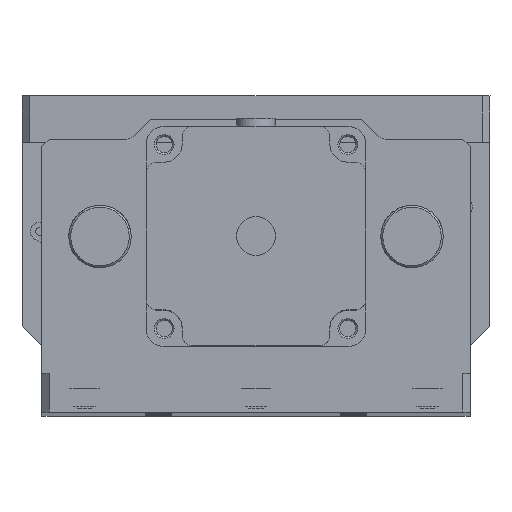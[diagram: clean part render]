
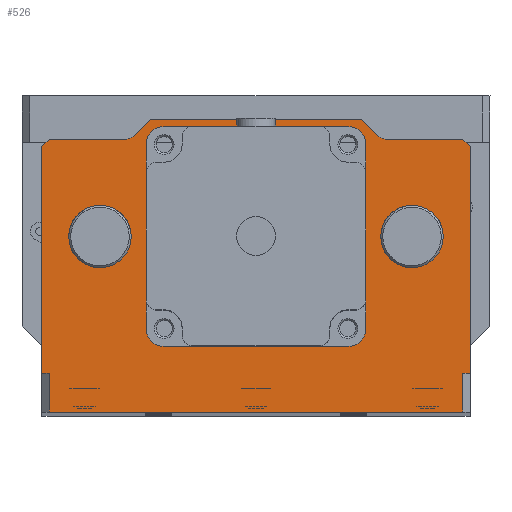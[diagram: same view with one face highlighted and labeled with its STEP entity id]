
A CAD part, top view. The second image highlights one B-rep face of the part: STEP entity #526.
In plain terms, the highlighted planar face has unit normal (0, 0, 1).
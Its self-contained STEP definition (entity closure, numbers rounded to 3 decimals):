
#526=ADVANCED_FACE('',(#14912,#14914,#14916,#14918),#14920,.T.);
#14912=FACE_BOUND('',#14913,.T.);
#14913=EDGE_LOOP('',(#26946,#26947,#26948,#26949,#26950,#26951,#26952,#26953,#26954,
#26955,#26956,#26957,#26958,#26959,#26960,#26961));
#14914=FACE_BOUND('',#14915,.T.);
#14915=EDGE_LOOP('',(#26962,#26963,#26964,#26965,#26966,#26967,#26968,#26969));
#14916=FACE_BOUND('',#14917,.T.);
#14917=EDGE_LOOP('',(#26970));
#14918=FACE_BOUND('',#14919,.T.);
#14919=EDGE_LOOP('',(#26971));
#14920=PLANE('',#14921);
#14921=AXIS2_PLACEMENT_3D('',#14922,#14923,#14924);
#14922=CARTESIAN_POINT('',(-55.,-45.,0.));
#14923=DIRECTION('',(0.,0.,1.));
#14924=DIRECTION('',(1.,0.,0.));
#26946=ORIENTED_EDGE('',*,*,#34131,.F.);
#26947=ORIENTED_EDGE('',*,*,#34096,.T.);
#26948=ORIENTED_EDGE('',*,*,#34133,.T.);
#26949=ORIENTED_EDGE('',*,*,#34134,.T.);
#26950=ORIENTED_EDGE('',*,*,#34007,.T.);
#26951=ORIENTED_EDGE('',*,*,#34135,.F.);
#26952=ORIENTED_EDGE('',*,*,#34136,.T.);
#26953=ORIENTED_EDGE('',*,*,#34137,.F.);
#26954=ORIENTED_EDGE('',*,*,#34138,.T.);
#26955=ORIENTED_EDGE('',*,*,#34139,.T.);
#26956=ORIENTED_EDGE('',*,*,#34140,.T.);
#26957=ORIENTED_EDGE('',*,*,#34141,.F.);
#26958=ORIENTED_EDGE('',*,*,#34142,.T.);
#26959=ORIENTED_EDGE('',*,*,#34143,.F.);
#26960=ORIENTED_EDGE('',*,*,#33964,.T.);
#26961=ORIENTED_EDGE('',*,*,#34132,.T.);
#26962=ORIENTED_EDGE('',*,*,#34144,.F.);
#26963=ORIENTED_EDGE('',*,*,#34145,.F.);
#26964=ORIENTED_EDGE('',*,*,#34146,.F.);
#26965=ORIENTED_EDGE('',*,*,#34147,.F.);
#26966=ORIENTED_EDGE('',*,*,#34148,.F.);
#26967=ORIENTED_EDGE('',*,*,#34149,.F.);
#26968=ORIENTED_EDGE('',*,*,#34150,.F.);
#26969=ORIENTED_EDGE('',*,*,#34151,.F.);
#26970=ORIENTED_EDGE('',*,*,#34152,.T.);
#26971=ORIENTED_EDGE('',*,*,#34153,.T.);
#33964=EDGE_CURVE('',#37367,#37365,#37368,.T.);
#34007=EDGE_CURVE('',#37450,#37448,#37451,.T.);
#34096=EDGE_CURVE('',#37612,#37610,#37613,.T.);
#34131=EDGE_CURVE('',#37612,#37679,#37681,.T.);
#34132=EDGE_CURVE('',#37365,#37679,#37682,.T.);
#34133=EDGE_CURVE('',#37610,#37683,#37684,.T.);
#34134=EDGE_CURVE('',#37683,#37450,#37685,.T.);
#34135=EDGE_CURVE('',#37686,#37448,#37687,.F.);
#34136=EDGE_CURVE('',#37686,#37688,#37689,.F.);
#34137=EDGE_CURVE('',#37690,#37688,#37691,.F.);
#34138=EDGE_CURVE('',#37690,#37692,#37693,.F.);
#34139=EDGE_CURVE('',#37692,#37694,#37695,.T.);
#34140=EDGE_CURVE('',#37694,#37696,#37697,.F.);
#34141=EDGE_CURVE('',#37698,#37696,#37699,.F.);
#34142=EDGE_CURVE('',#37698,#37700,#37701,.F.);
#34143=EDGE_CURVE('',#37367,#37700,#37702,.F.);
#34144=EDGE_CURVE('',#37703,#37704,#37705,.T.);
#34145=EDGE_CURVE('',#37706,#37703,#37707,.T.);
#34146=EDGE_CURVE('',#37708,#37706,#37709,.T.);
#34147=EDGE_CURVE('',#37710,#37708,#37711,.T.);
#34148=EDGE_CURVE('',#37712,#37710,#37713,.T.);
#34149=EDGE_CURVE('',#37714,#37712,#37715,.T.);
#34150=EDGE_CURVE('',#37716,#37714,#37717,.T.);
#34151=EDGE_CURVE('',#37704,#37716,#37718,.T.);
#34152=EDGE_CURVE('',#37719,#37719,#37720,.F.);
#34153=EDGE_CURVE('',#37721,#37721,#37722,.F.);
#37365=VERTEX_POINT('',#43367);
#37367=VERTEX_POINT('',#43371);
#37368=LINE('',#43372,#43373);
#37448=VERTEX_POINT('',#43564);
#37450=VERTEX_POINT('',#43568);
#37451=LINE('',#43569,#43570);
#37610=VERTEX_POINT('',#44129);
#37612=VERTEX_POINT('',#44133);
#37613=LINE('',#44134,#44135);
#37679=VERTEX_POINT('',#44300);
#37681=LINE('',#44304,#44305);
#37682=LINE('',#44307,#44308);
#37683=VERTEX_POINT('',#44310);
#37684=LINE('',#44311,#44312);
#37685=LINE('',#44314,#44315);
#37686=VERTEX_POINT('',#44317);
#37687=LINE('',#44318,#44319);
#37688=VERTEX_POINT('',#44321);
#37689=LINE('',#44322,#44323);
#37690=VERTEX_POINT('',#44325);
#37691=CIRCLE('',#44326,3.);
#37692=VERTEX_POINT('',#44330);
#37693=LINE('',#44331,#44332);
#37694=VERTEX_POINT('',#44334);
#37695=LINE('',#44335,#44336);
#37696=VERTEX_POINT('',#44338);
#37697=LINE('',#44339,#44340);
#37698=VERTEX_POINT('',#44342);
#37699=CIRCLE('',#44343,3.);
#37700=VERTEX_POINT('',#44347);
#37701=LINE('',#44348,#44349);
#37702=LINE('',#44351,#44352);
#37703=VERTEX_POINT('',#44354);
#37704=VERTEX_POINT('',#44355);
#37705=LINE('',#44356,#44357);
#37706=VERTEX_POINT('',#44359);
#37707=CIRCLE('',#44360,4.63);
#37708=VERTEX_POINT('',#44364);
#37709=LINE('',#44365,#44366);
#37710=VERTEX_POINT('',#44368);
#37711=CIRCLE('',#44369,4.63);
#37712=VERTEX_POINT('',#44373);
#37713=LINE('',#44374,#44375);
#37714=VERTEX_POINT('',#44377);
#37715=CIRCLE('',#44378,4.63);
#37716=VERTEX_POINT('',#44382);
#37717=LINE('',#44383,#44384);
#37718=CIRCLE('',#44386,4.63);
#37719=VERTEX_POINT('',#44390);
#37720=CIRCLE('',#44391,8.);
#37721=VERTEX_POINT('',#44395);
#37722=CIRCLE('',#44396,8.);
#43367=CARTESIAN_POINT('',(-55.,-35.,0.));
#43371=CARTESIAN_POINT('',(-55.,23.,0.));
#43372=CARTESIAN_POINT('',(-55.,23.,0.));
#43373=VECTOR('',#43374,1.);
#43374=DIRECTION('',(0.,-1.,0.));
#43564=CARTESIAN_POINT('',(55.,23.,0.));
#43568=CARTESIAN_POINT('',(55.,-35.,0.));
#43569=CARTESIAN_POINT('',(55.,-35.,0.));
#43570=VECTOR('',#43571,1.);
#43571=DIRECTION('',(0.,1.,0.));
#44129=CARTESIAN_POINT('',(53.,-45.,0.));
#44133=CARTESIAN_POINT('',(-53.,-45.,0.));
#44134=CARTESIAN_POINT('',(-53.,-45.,0.));
#44135=VECTOR('',#44136,1.);
#44136=DIRECTION('',(1.,0.,0.));
#44300=CARTESIAN_POINT('',(-53.,-35.,0.));
#44304=CARTESIAN_POINT('',(-53.,-45.,0.));
#44305=VECTOR('',#44306,1.);
#44306=DIRECTION('',(0.,1.,0.));
#44307=CARTESIAN_POINT('',(-55.,-35.,0.));
#44308=VECTOR('',#44309,1.);
#44309=DIRECTION('',(1.,0.,0.));
#44310=CARTESIAN_POINT('',(53.,-35.,0.));
#44311=CARTESIAN_POINT('',(53.,-45.,0.));
#44312=VECTOR('',#44313,1.);
#44313=DIRECTION('',(0.,1.,0.));
#44314=CARTESIAN_POINT('',(53.,-35.,0.));
#44315=VECTOR('',#44316,1.);
#44316=DIRECTION('',(1.,0.,0.));
#44317=CARTESIAN_POINT('',(53.,25.,0.));
#44318=CARTESIAN_POINT('',(55.,23.,0.));
#44319=VECTOR('',#44320,1.);
#44320=DIRECTION('',(-0.707,0.707,0.));
#44321=CARTESIAN_POINT('',(33.243,25.,0.));
#44322=CARTESIAN_POINT('',(33.243,25.,0.));
#44323=VECTOR('',#44324,1.);
#44324=DIRECTION('',(1.,0.,0.));
#44325=CARTESIAN_POINT('',(31.121,25.879,0.));
#44326=AXIS2_PLACEMENT_3D('',#44327,#44328,#44329);
#44327=CARTESIAN_POINT('',(33.243,28.,0.));
#44328=DIRECTION('',(0.,0.,-1.));
#44329=DIRECTION('',(0.,-1.,0.));
#44330=CARTESIAN_POINT('',(27.,30.,0.));
#44331=CARTESIAN_POINT('',(27.,30.,0.));
#44332=VECTOR('',#44333,1.);
#44333=DIRECTION('',(0.707,-0.707,0.));
#44334=CARTESIAN_POINT('',(-27.,30.,0.));
#44335=CARTESIAN_POINT('',(27.,30.,0.));
#44336=VECTOR('',#44337,1.);
#44337=DIRECTION('',(-1.,0.,0.));
#44338=CARTESIAN_POINT('',(-31.121,25.879,0.));
#44339=CARTESIAN_POINT('',(-31.121,25.879,0.));
#44340=VECTOR('',#44341,1.);
#44341=DIRECTION('',(0.707,0.707,0.));
#44342=CARTESIAN_POINT('',(-33.243,25.,0.));
#44343=AXIS2_PLACEMENT_3D('',#44344,#44345,#44346);
#44344=CARTESIAN_POINT('',(-33.243,28.,0.));
#44345=DIRECTION('',(0.,0.,-1.));
#44346=DIRECTION('',(0.707,-0.707,0.));
#44347=CARTESIAN_POINT('',(-53.,25.,0.));
#44348=CARTESIAN_POINT('',(-53.,25.,0.));
#44349=VECTOR('',#44350,1.);
#44350=DIRECTION('',(1.,0.,0.));
#44351=CARTESIAN_POINT('',(-53.,25.,0.));
#44352=VECTOR('',#44353,1.);
#44353=DIRECTION('',(-0.707,-0.707,0.));
#44354=CARTESIAN_POINT('',(23.57,28.2,0.));
#44355=CARTESIAN_POINT('',(-23.57,28.2,0.));
#44356=CARTESIAN_POINT('',(23.57,28.2,0.));
#44357=VECTOR('',#44358,1.);
#44358=DIRECTION('',(-1.,0.,0.));
#44359=CARTESIAN_POINT('',(28.2,23.57,0.));
#44360=AXIS2_PLACEMENT_3D('',#44361,#44362,#44363);
#44361=CARTESIAN_POINT('',(23.57,23.57,0.));
#44362=DIRECTION('',(-0.,0.,1.));
#44363=DIRECTION('',(1.,0.,0.));
#44364=CARTESIAN_POINT('',(28.2,-23.57,0.));
#44365=CARTESIAN_POINT('',(28.2,-23.57,0.));
#44366=VECTOR('',#44367,1.);
#44367=DIRECTION('',(0.,1.,0.));
#44368=CARTESIAN_POINT('',(23.57,-28.2,0.));
#44369=AXIS2_PLACEMENT_3D('',#44370,#44371,#44372);
#44370=CARTESIAN_POINT('',(23.57,-23.57,0.));
#44371=DIRECTION('',(0.,0.,1.));
#44372=DIRECTION('',(0.,-1.,0.));
#44373=CARTESIAN_POINT('',(-23.57,-28.2,0.));
#44374=CARTESIAN_POINT('',(-23.57,-28.2,0.));
#44375=VECTOR('',#44376,1.);
#44376=DIRECTION('',(1.,0.,0.));
#44377=CARTESIAN_POINT('',(-28.2,-23.57,0.));
#44378=AXIS2_PLACEMENT_3D('',#44379,#44380,#44381);
#44379=CARTESIAN_POINT('',(-23.57,-23.57,0.));
#44380=DIRECTION('',(0.,0.,1.));
#44381=DIRECTION('',(-1.,0.,0.));
#44382=CARTESIAN_POINT('',(-28.2,23.57,0.));
#44383=CARTESIAN_POINT('',(-28.2,23.57,0.));
#44384=VECTOR('',#44385,1.);
#44385=DIRECTION('',(0.,-1.,0.));
#44386=AXIS2_PLACEMENT_3D('',#44387,#44388,#44389);
#44387=CARTESIAN_POINT('',(-23.57,23.57,0.));
#44388=DIRECTION('',(0.,0.,1.));
#44389=DIRECTION('',(0.,1.,0.));
#44390=CARTESIAN_POINT('',(-32.,0.,0.));
#44391=AXIS2_PLACEMENT_3D('',#44392,#44393,#44394);
#44392=CARTESIAN_POINT('',(-40.,0.,0.));
#44393=DIRECTION('',(0.,0.,1.));
#44394=DIRECTION('',(1.,0.,0.));
#44395=CARTESIAN_POINT('',(48.,0.,0.));
#44396=AXIS2_PLACEMENT_3D('',#44397,#44398,#44399);
#44397=CARTESIAN_POINT('',(40.,0.,0.));
#44398=DIRECTION('',(0.,0.,1.));
#44399=DIRECTION('',(1.,0.,0.));
